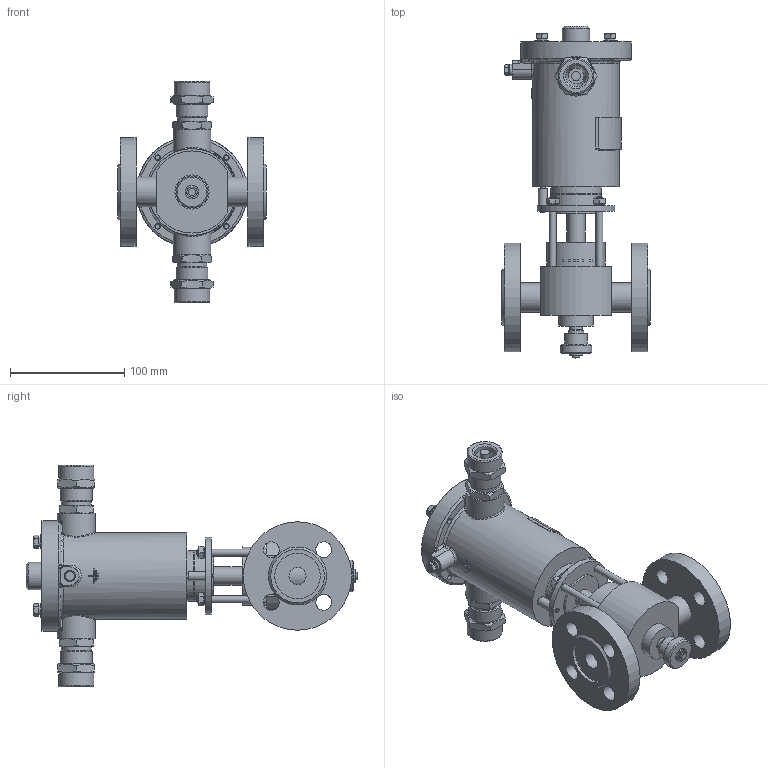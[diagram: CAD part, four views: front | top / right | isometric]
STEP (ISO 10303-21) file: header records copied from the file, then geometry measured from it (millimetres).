
FILE_DESCRIPTION(('STEP AP203'), '1');
FILE_NAME('ÑÅÍÑ DN15PN25-Â-ÍÎ-200Ñ-ÑÂ.stp', '2018-09-19T08:55:20', ('Îðëîâ Å.Â.'), ('ÎÎÎ ÍÏÏ Ñåíñîð'), 'ASCON STEP Converter 1.3', 'Kompas 3D', '');
FILE_SCHEMA(('CONFIG_CONTROL_DESIGN','SUPPORT_RESOURCE_SCHEMA'));
Length unit declared in the file: millimetre
Products named in the file (1): 108
Bounding box: 130 x 291 x 194 mm (x, y, z)
Volume: 784015.3 mm3; surface area: 239066.5 mm2
Topology: 3 solids, 25 shells, 1931 faces, 5091 edges, 3321 vertices
Faces by surface type: cylinder 999, plane 729, cone 139, bspline 29, torus 19, extrusion 16
Full cylindrical faces by diameter (mm): 2.459 x4, 4 x8, 4.134 x1, 4.5 x2, 4.917 x8, 5 x2, 5.1 x1, 6 x15, 6.3 x2, 6.4 x1, 6.5 x11, 7 x1, 8 x8, 10 x3, 11.5 x1, 12 x5, 12.4 x1, 13 x2, 14 x9, 15 x2, 16 x2, 16.376 x1, 18 x1, 18.632 x2, 20 x5, 22 x2, 22.376 x2, 23.5 x3, 24 x4, 24.5 x4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
Entity records: 72593 total; most frequent: CARTESIAN_POINT 23436, DIRECTION 10728, ORIENTED_EDGE 10126, EDGE_CURVE 5063, AXIS2_PLACEMENT_3D 4141, VERTEX_POINT 3313, VECTOR 2446, LINE 2430
